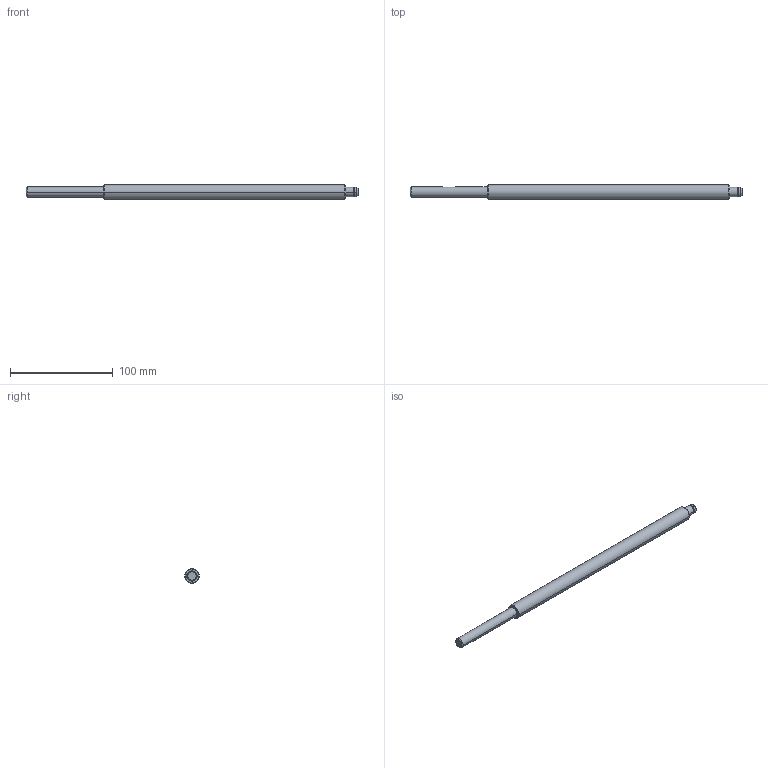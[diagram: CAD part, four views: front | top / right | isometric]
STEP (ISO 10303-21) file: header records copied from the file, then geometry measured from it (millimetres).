
FILE_DESCRIPTION (( 'STEP AP214' ), '1' );
FILE_NAME ('Vis trapézoïdale.STEP', '2005-04-06T20:45:36', ( 'frantz' ), ( '' ), 'SwSTEP 2.0', 'SolidWorks 2004104', '' );
FILE_SCHEMA (( 'AUTOMOTIVE_DESIGN' ));
Length unit declared in the file: millimetre
Products named in the file (1): Vis trap憴o骾ale
Bounding box: 323 x 14 x 14 mm (x, y, z)
Volume: 42822.8 mm3; surface area: 13395.1 mm2
Topology: 1 solids, 1 shells, 30 faces, 69 edges, 46 vertices
Faces by surface type: cylinder 14, plane 10, cone 6
Entity records: 938 total; most frequent: CARTESIAN_POINT 198, DIRECTION 165, ORIENTED_EDGE 138, EDGE_CURVE 69, AXIS2_PLACEMENT_3D 69, VERTEX_POINT 46, CIRCLE 38, EDGE_LOOP 35
